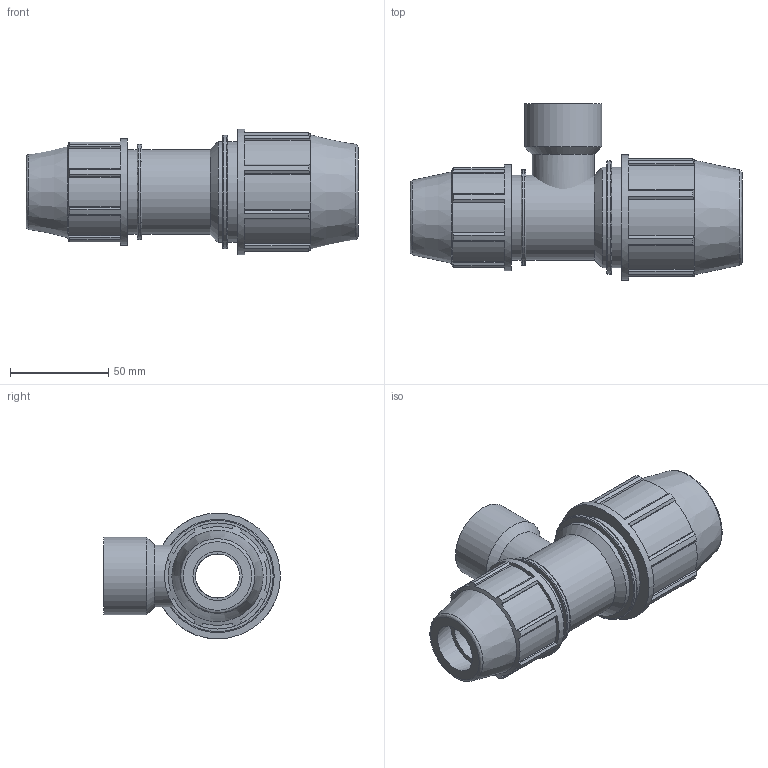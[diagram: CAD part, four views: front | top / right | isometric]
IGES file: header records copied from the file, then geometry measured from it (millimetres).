
Global section: file name: 0714S0032025_1814S0032025_0714S60320250A.ipt; native system: Autodesk Inventor 2015; preprocessor: unknown; author: KIM; date: 20170608.042132; units: millimetre
Bounding box: 169 x 90 x 64 mm (x, y, z)
Volume: 259735.3 mm3; surface area: 61928.3 mm2
Topology: 2 solids, 2 shells, 146 faces, 411 edges, 278 vertices
Faces by surface type: plane 96, cylinder 26, revolution 18, cone 6
Full cylindrical faces by diameter (mm): 31.587 x1, 39.378 x1, 43.2 x2, 48.6 x1, 51.2 x2, 54 x1, 57.6 x1, 64 x1
